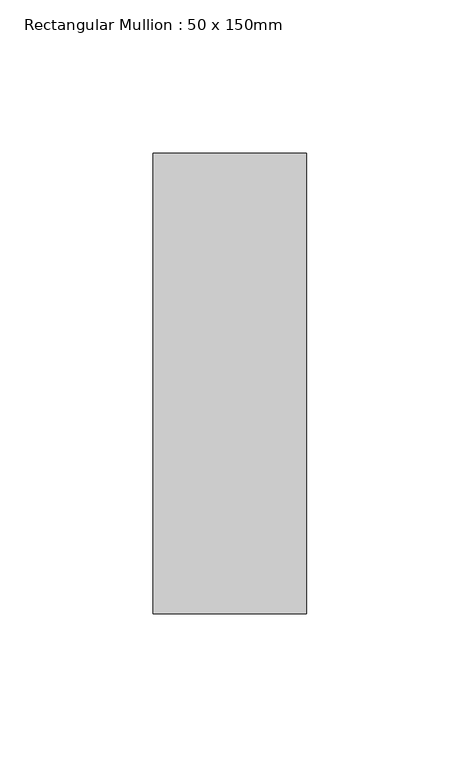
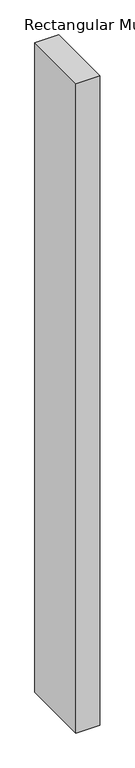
"""IFC4 building model written with IfcOpenShell, lengths in millimetres: member geometry, Rectangular Mullion : 50 x 150mm."""

from ifc_helpers import new_model, si_unit, frame, origin, place, context, project, spatial, polyline, outline, extrude, source, transform, mapped, element, save


def rectangular_mullion_50_x_150mm_e3a7335b(model_context):
    return source(origin(), model_context, "Body", "SweptSolid", [
        extrude(outline(polyline([(0.0, 75.0), (0.0, -75.0), (-50.0, -75.0), (-50.0, 75.0), (0.0, 75.0)])), frame((0.0, 0.0, -1449.9999998), z_axis=(0.0, 0.0, 1.0), x_axis=(1.0, 0.0, 0.0)), (0.0, 0.0, 1.0), 1449.9999998),
    ])


if __name__ == "__main__":
    model = new_model("IFC4")
    model_context = context("Model", 3, world=origin())
    ifc_project = project(units=[si_unit("LENGTHUNIT", "METRE", prefix="MILLI")], contexts=[model_context])
    site = spatial("IfcSite", under=ifc_project)
    building = spatial("IfcBuilding", under=site)
    placement = place(None, origin())
    rectangular_mullion_50_x_150mm_shape = rectangular_mullion_50_x_150mm_e3a7335b(model_context)
    element("IfcMember", 1, ObjectType="Rectangular Mullion : 50 x 150mm", at=placement, inside=building, context=model_context, shape_type="MappedRepresentation", body=[
        mapped(rectangular_mullion_50_x_150mm_shape, transform((0.0, 0.0, 0.0), x_axis=(1.0, 0.0, 0.0), y_axis=(0.0, 1.0, 0.0), z_axis=(0.0, 0.0, 1.0))),
    ])
    save(model, "model.ifc")
